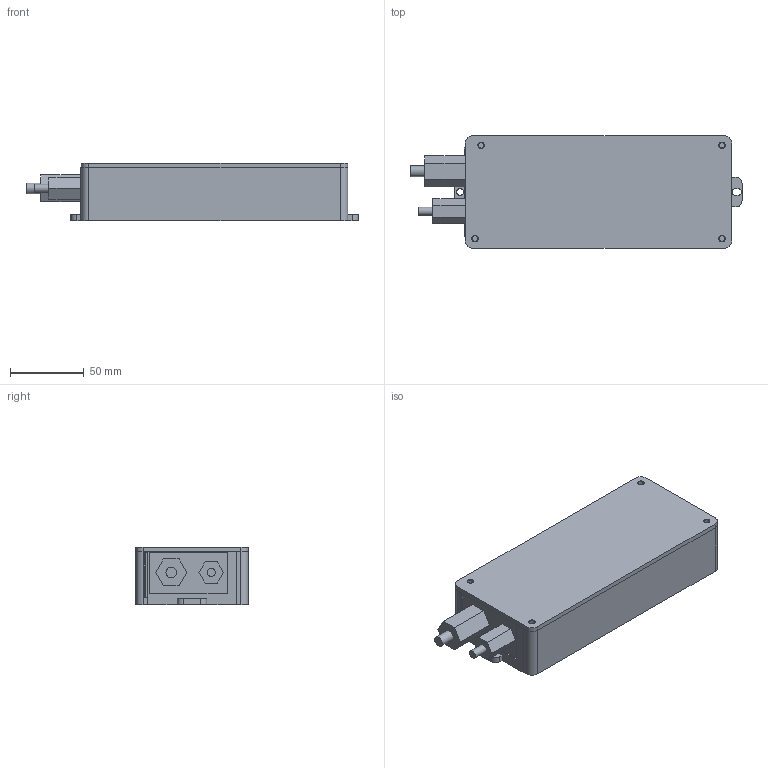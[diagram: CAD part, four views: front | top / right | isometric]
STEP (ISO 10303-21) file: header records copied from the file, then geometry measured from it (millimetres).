
FILE_DESCRIPTION(('FreeCAD Model'),'2;1');
FILE_NAME('Open CASCADE Shape Model','2026-11-14T22:59:46',('FreeCAD'),( 'FreeCAD'),'Open CASCADE STEP processor 7.8','FreeCAD','Unknown');
FILE_SCHEMA(('AUTOMOTIVE_DESIGN { 1 0 10303 214 1 1 1 1 }'));
Products named in the file (1): Open CASCADE STEP translator 7.8 4
Bounding box: 224.4 x 76 x 39.2 mm (x, y, z)
Volume: 189489.3 mm3; surface area: 127796.2 mm2
Topology: 126 solids, 126 shells, 4146 faces, 10487 edges, 6665 vertices
Faces by surface type: plane 3099, cylinder 890, bspline 136, cone 12, sphere 4, torus 4, revolution 1
Full cylindrical faces by diameter (mm): 0.5 x1, 1.02 x5, 1.2 x2, 1.7 x8, 1.8 x2, 3.2 x4, 3.8 x4, 4 x8, 4.6 x1, 5.5 x1, 7.2 x1, 8 x2, 8.8 x4, 12.5 x1, 16.6 x1
Entity records: 122211 total; most frequent: CARTESIAN_POINT 22126, ORIENTED_EDGE 20963, DIRECTION 20120, EDGE_CURVE 10483, LINE 8409, VECTOR 8409, VERTEX_POINT 6665, AXIS2_PLACEMENT_3D 5855
